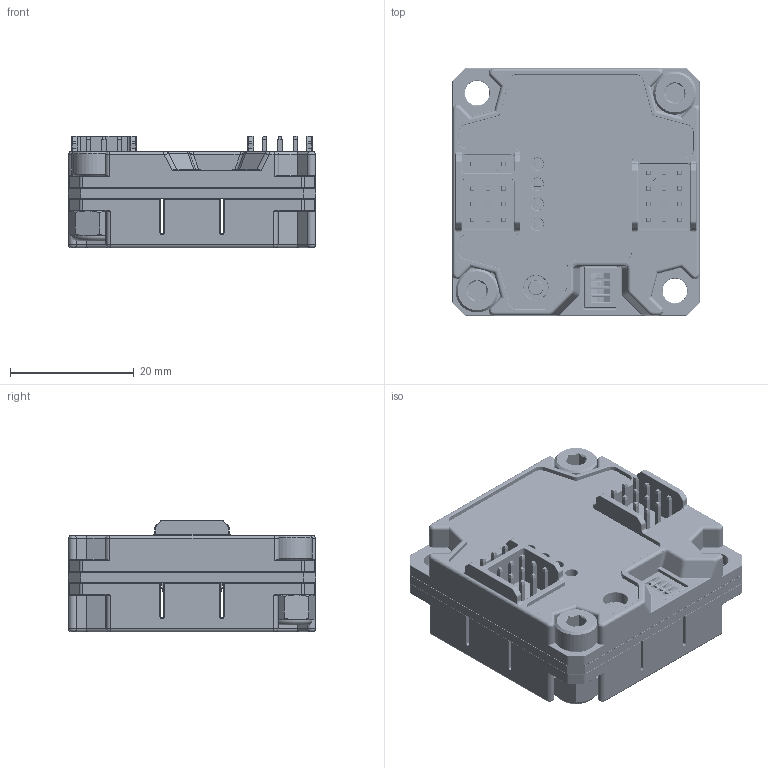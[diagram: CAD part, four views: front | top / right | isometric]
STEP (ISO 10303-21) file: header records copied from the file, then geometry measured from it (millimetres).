
FILE_DESCRIPTION(/* description */ (''),/* implementation_level */ '2;1');
FILE_NAME(/* name */ '3109-0001-0001 assembly.step',/* time_stamp */ '2023-07-06T09:05:08-05:00',/* author */ (''),/* organization */ (''),/* preprocessor_version */ 'ST-DEVELOPER v19.2',/* originating_system */ 'Autodesk Translation Framework v12.6.0.85',/* authorisation */ '');
FILE_SCHEMA (('AUTOMOTIVE_DESIGN { 1 0 10303 214 3 1 1 }'));
Products named in the file (28): (Unsaved); 3109-0001-0001 Board; 3109-0001-0001; Board; Packages; SOT23; 3225; QFN-24+; 4XDIPSW; 4xDipSwitch v3; Leads; Lead; Switches; Switch; 4.5X4.5-TS-4MM; 4.5x4.5 SPST Tactile Switch v2; 0603C; 0603LED; 0805C; SOD-523; 1X03; 3x2.54mm Pin Head v5; 1X04-2.54; 4x2.54mm Pin Head v3; 3117-0032-0003; 3117-0032-0014; 2800-0004-0010; 2812-0004-0007
Assembly tree (61 placements, depth 8):
  (Unsaved)
    3109-0001-0001 Board
      3109-0001-0001
        Board
        Packages
          SOT23
          3225
          QFN-24+
          4XDIPSW
            4xDipSwitch v3
              Leads
                Lead  x8
              Switches
                Switch  x4
          4.5X4.5-TS-4MM
            4.5x4.5 SPST Tactile Switch v2
          0603C  x5
          0603LED  x4
          0805C  x5
          SOD-523  x7
          1X03  x4
            3x2.54mm Pin Head v5
          1X04-2.54  x3
            4x2.54mm Pin Head v3
    3117-0032-0003
    3117-0032-0014
    2800-0004-0010  x2
    2812-0004-0007  x2
Bounding box: 40 x 40 x 18.1 mm (x, y, z)
Volume: 10874.8 mm3; surface area: 17823.3 mm2
Topology: 49 solids, 49 shells, 4092 faces, 10036 edges, 6110 vertices
Faces by surface type: plane 1762, cylinder 1388, torus 553, bspline 306, cone 51, sphere 32
Full cylindrical faces by diameter (mm): 0.2 x148, 0.35 x4, 0.5 x48, 0.75 x8, 1 x24, 2 x4, 2.45 x2, 3.091 x26, 3.3 x8, 3.359 x2, 4 x49, 4.371 x2, 7 x2
Entity records: 104687 total; most frequent: CARTESIAN_POINT 27833, DIRECTION 16429, ORIENTED_EDGE 15400, EDGE_CURVE 7700, AXIS2_PLACEMENT_3D 6243, VERTEX_POINT 4665, LINE 3943, VECTOR 3943
